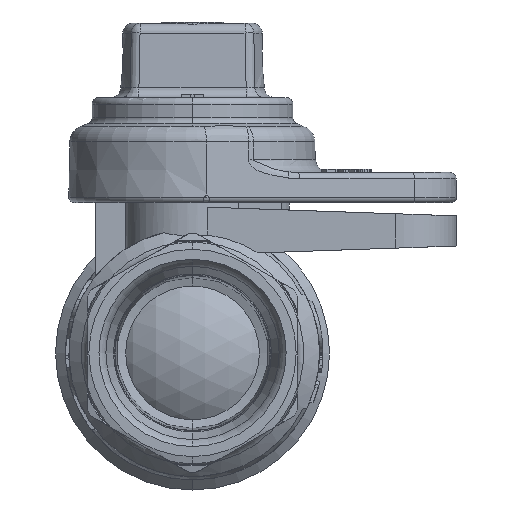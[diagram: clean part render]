
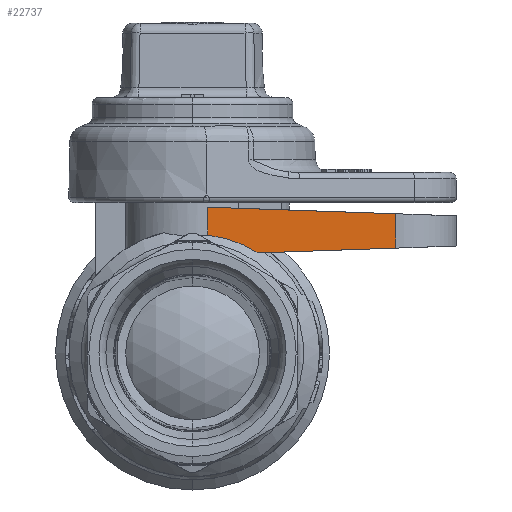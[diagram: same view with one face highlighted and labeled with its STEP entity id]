
A CAD part, left-side view. The second image highlights one B-rep face of the part: STEP entity #22737.
In plain terms, the highlighted planar face has unit normal (-1, -0.018, 0).
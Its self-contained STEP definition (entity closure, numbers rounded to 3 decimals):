
#103 = VERTEX_POINT('',#104);
#104 = CARTESIAN_POINT('',(-33.163,13.011,
    -34.93));
#113 = PLANE('',#114);
#114 = AXIS2_PLACEMENT_3D('',#115,#116,#117);
#115 = CARTESIAN_POINT('',(-33.187,11.544,
    -34.981));
#116 = DIRECTION('',(0.,-0.035,0.999));
#117 = DIRECTION('',(-1.,0.,0.));
#127 = CYLINDRICAL_SURFACE('',#128,0.394);
#128 = AXIS2_PLACEMENT_3D('',#129,#130,#131);
#129 = CARTESIAN_POINT('',(-32.779,13.101,
    -34.538));
#130 = DIRECTION('',(0.,0.,-1.));
#131 = DIRECTION('',(-1.,-0.,0.));
#161 = EDGE_CURVE('',#103,#162,#164,.T.);
#162 = VERTEX_POINT('',#163);
#163 = CARTESIAN_POINT('',(-33.143,11.902,
    -34.968));
#164 = SURFACE_CURVE('',#165,(#169,#176),.PCURVE_S1.);
#165 = LINE('',#166,#167);
#166 = CARTESIAN_POINT('',(-33.163,13.011,
    -34.93));
#167 = VECTOR('',#168,1.);
#168 = DIRECTION('',(0.017,-0.999,
    -0.035));
#169 = PCURVE('',#113,#170);
#170 = DEFINITIONAL_REPRESENTATION('',(#171),#175);
#171 = LINE('',#172,#173);
#172 = CARTESIAN_POINT('',(-0.024,-1.468));
#173 = VECTOR('',#174,1.);
#174 = DIRECTION('',(-0.017,1.));
#175 = ( GEOMETRIC_REPRESENTATION_CONTEXT(2) 
PARAMETRIC_REPRESENTATION_CONTEXT() REPRESENTATION_CONTEXT('2D SPACE',''
  ) );
#176 = PCURVE('',#177,#182);
#177 = PLANE('',#178);
#178 = AXIS2_PLACEMENT_3D('',#179,#180,#181);
#179 = CARTESIAN_POINT('',(-33.164,13.101,
    -34.981));
#180 = DIRECTION('',(-1.,-0.017,
    0.));
#181 = DIRECTION('',(0.017,-1.,
    0.));
#182 = DEFINITIONAL_REPRESENTATION('',(#183),#187);
#183 = LINE('',#184,#185);
#184 = CARTESIAN_POINT('',(0.089,0.051));
#185 = VECTOR('',#186,1.);
#186 = DIRECTION('',(0.999,-0.035));
#187 = ( GEOMETRIC_REPRESENTATION_CONTEXT(2) 
PARAMETRIC_REPRESENTATION_CONTEXT() REPRESENTATION_CONTEXT('2D SPACE',''
  ) );
#361 = CYLINDRICAL_SURFACE('',#362,0.364);
#362 = AXIS2_PLACEMENT_3D('',#363,#364,#365);
#363 = CARTESIAN_POINT('',(-32.779,11.909,
    -34.981));
#364 = DIRECTION('',(0.,0.,1.));
#365 = DIRECTION('',(1.,0.,-0.));
#6918 = CONICAL_SURFACE('',#6919,0.702,0.785);
#6919 = AXIS2_PLACEMENT_3D('',#6920,#6921,#6922);
#6920 = CARTESIAN_POINT('',(-33.161,13.101,
    -35.789));
#6921 = DIRECTION('',(1.,0.,0.));
#6922 = DIRECTION('',(0.,0.,-1.));
#15833 = VERTEX_POINT('',#15834);
#15834 = CARTESIAN_POINT('',(-33.163,13.011,
    -35.095));
#15902 = EDGE_CURVE('',#103,#15833,#15903,.T.);
#15903 = SURFACE_CURVE('',#15904,(#15908,#15915),.PCURVE_S1.);
#15904 = LINE('',#15905,#15906);
#15905 = CARTESIAN_POINT('',(-33.163,13.011,
    -34.93));
#15906 = VECTOR('',#15907,1.);
#15907 = DIRECTION('',(0.,0.,-1.));
#15908 = PCURVE('',#127,#15909);
#15909 = DEFINITIONAL_REPRESENTATION('',(#15910),#15914);
#15910 = LINE('',#15911,#15912);
#15911 = CARTESIAN_POINT('',(-0.229,0.391));
#15912 = VECTOR('',#15913,1.);
#15913 = DIRECTION('',(0.,1.));
#15914 = ( GEOMETRIC_REPRESENTATION_CONTEXT(2) 
PARAMETRIC_REPRESENTATION_CONTEXT() REPRESENTATION_CONTEXT('2D SPACE',''
  ) );
#15915 = PCURVE('',#177,#15916);
#15916 = DEFINITIONAL_REPRESENTATION('',(#15917),#15921);
#15917 = LINE('',#15918,#15919);
#15918 = CARTESIAN_POINT('',(0.089,0.051));
#15919 = VECTOR('',#15920,1.);
#15920 = DIRECTION('',(0.,-1.));
#15921 = ( GEOMETRIC_REPRESENTATION_CONTEXT(2) 
PARAMETRIC_REPRESENTATION_CONTEXT() REPRESENTATION_CONTEXT('2D SPACE',''
  ) );
#21109 = VERTEX_POINT('',#21110);
#21110 = CARTESIAN_POINT('',(-33.158,12.714,
    -35.199));
#21148 = PLANE('',#21149);
#21149 = AXIS2_PLACEMENT_3D('',#21150,#21151,#21152);
#21150 = CARTESIAN_POINT('',(-33.187,11.544,
    -35.158));
#21151 = DIRECTION('',(0.,0.035,0.999));
#21152 = DIRECTION('',(-1.,0.,0.));
#21162 = EDGE_CURVE('',#21109,#15833,#21163,.T.);
#21163 = SURFACE_CURVE('',#21164,(#21170,#21199),.PCURVE_S1.);
#21164 = B_SPLINE_CURVE_WITH_KNOTS('',3,(#21165,#21166,#21167,#21168,
    #21169),.UNSPECIFIED.,.F.,.F.,(4,1,4),(0.,0.5,1.),
  .QUASI_UNIFORM_KNOTS.);
#21165 = CARTESIAN_POINT('',(-33.158,12.714,
    -35.199));
#21166 = CARTESIAN_POINT('',(-33.158,12.76,
    -35.17));
#21167 = CARTESIAN_POINT('',(-33.16,12.855,
    -35.124));
#21168 = CARTESIAN_POINT('',(-33.162,12.958,
    -35.1));
#21169 = CARTESIAN_POINT('',(-33.163,13.011,
    -35.095));
#21170 = PCURVE('',#6918,#21171);
#21171 = DEFINITIONAL_REPRESENTATION('',(#21172),#21198);
#21172 = B_SPLINE_CURVE_WITH_KNOTS('',3,(#21173,#21174,#21175,#21176,
    #21177,#21178,#21179,#21180,#21181,#21182,#21183,#21184,#21185,
    #21186,#21187,#21188,#21189,#21190,#21191,#21192,#21193,#21194,
    #21195,#21196,#21197),.UNSPECIFIED.,.F.,.F.,(4,1,1,1,1,1,1,1,1,1,1,1
    ,1,1,1,1,1,1,1,1,1,1,4),(0.,0.045,0.091,
    0.136,0.182,0.227,0.273,
    0.318,0.364,0.409,0.455,0.5,
    0.545,0.591,0.636,0.682,
    0.727,0.773,0.818,0.864,
    0.909,0.955,1.),.QUASI_UNIFORM_KNOTS.);
#21173 = CARTESIAN_POINT('',(-2.561,0.003));
#21174 = CARTESIAN_POINT('',(-2.568,0.003));
#21175 = CARTESIAN_POINT('',(-2.582,0.003));
#21176 = CARTESIAN_POINT('',(-2.603,0.003));
#21177 = CARTESIAN_POINT('',(-2.624,0.002));
#21178 = CARTESIAN_POINT('',(-2.644,0.002));
#21179 = CARTESIAN_POINT('',(-2.665,0.002));
#21180 = CARTESIAN_POINT('',(-2.685,0.002));
#21181 = CARTESIAN_POINT('',(-2.706,0.001));
#21182 = CARTESIAN_POINT('',(-2.726,0.001));
#21183 = CARTESIAN_POINT('',(-2.746,0.001));
#21184 = CARTESIAN_POINT('',(-2.767,0.001));
#21185 = CARTESIAN_POINT('',(-2.787,0.001));
#21186 = CARTESIAN_POINT('',(-2.807,0.));
#21187 = CARTESIAN_POINT('',(-2.828,0.));
#21188 = CARTESIAN_POINT('',(-2.848,0.));
#21189 = CARTESIAN_POINT('',(-2.869,0.));
#21190 = CARTESIAN_POINT('',(-2.889,-0.001));
#21191 = CARTESIAN_POINT('',(-2.91,-0.001));
#21192 = CARTESIAN_POINT('',(-2.93,-0.001));
#21193 = CARTESIAN_POINT('',(-2.951,-0.001));
#21194 = CARTESIAN_POINT('',(-2.972,-0.002));
#21195 = CARTESIAN_POINT('',(-2.993,-0.002));
#21196 = CARTESIAN_POINT('',(-3.007,-0.002));
#21197 = CARTESIAN_POINT('',(-3.014,-0.002));
#21198 = ( GEOMETRIC_REPRESENTATION_CONTEXT(2) 
PARAMETRIC_REPRESENTATION_CONTEXT() REPRESENTATION_CONTEXT('2D SPACE',''
  ) );
#21199 = PCURVE('',#177,#21200);
#21200 = DEFINITIONAL_REPRESENTATION('',(#21201),#21207);
#21201 = B_SPLINE_CURVE_WITH_KNOTS('',3,(#21202,#21203,#21204,#21205,
    #21206),.UNSPECIFIED.,.F.,.F.,(4,1,4),(0.,0.5,1.),
  .QUASI_UNIFORM_KNOTS.);
#21202 = CARTESIAN_POINT('',(0.387,-0.218));
#21203 = CARTESIAN_POINT('',(0.341,-0.189));
#21204 = CARTESIAN_POINT('',(0.246,-0.143));
#21205 = CARTESIAN_POINT('',(0.143,-0.12));
#21206 = CARTESIAN_POINT('',(0.089,-0.114));
#21207 = ( GEOMETRIC_REPRESENTATION_CONTEXT(2) 
PARAMETRIC_REPRESENTATION_CONTEXT() REPRESENTATION_CONTEXT('2D SPACE',''
  ) );
#21980 = VERTEX_POINT('',#21981);
#21981 = CARTESIAN_POINT('',(-33.143,11.902,
    -35.171));
#22488 = EDGE_CURVE('',#21109,#21980,#22489,.T.);
#22489 = SURFACE_CURVE('',#22490,(#22494,#22501),.PCURVE_S1.);
#22490 = LINE('',#22491,#22492);
#22491 = CARTESIAN_POINT('',(-33.158,12.714,
    -35.199));
#22492 = VECTOR('',#22493,1.);
#22493 = DIRECTION('',(0.017,-0.999,
    0.035));
#22494 = PCURVE('',#21148,#22495);
#22495 = DEFINITIONAL_REPRESENTATION('',(#22496),#22500);
#22496 = LINE('',#22497,#22498);
#22497 = CARTESIAN_POINT('',(-0.029,-1.171));
#22498 = VECTOR('',#22499,1.);
#22499 = DIRECTION('',(-0.017,1.));
#22500 = ( GEOMETRIC_REPRESENTATION_CONTEXT(2) 
PARAMETRIC_REPRESENTATION_CONTEXT() REPRESENTATION_CONTEXT('2D SPACE',''
  ) );
#22501 = PCURVE('',#177,#22502);
#22502 = DEFINITIONAL_REPRESENTATION('',(#22503),#22507);
#22503 = LINE('',#22504,#22505);
#22504 = CARTESIAN_POINT('',(0.387,-0.218));
#22505 = VECTOR('',#22506,1.);
#22506 = DIRECTION('',(0.999,0.035));
#22507 = ( GEOMETRIC_REPRESENTATION_CONTEXT(2) 
PARAMETRIC_REPRESENTATION_CONTEXT() REPRESENTATION_CONTEXT('2D SPACE',''
  ) );
#22737 = ADVANCED_FACE('',(#22738),#177,.T.);
#22738 = FACE_BOUND('',#22739,.T.);
#22739 = EDGE_LOOP('',(#22740,#22741,#22742,#22763,#22764));
#22740 = ORIENTED_EDGE('',*,*,#21162,.F.);
#22741 = ORIENTED_EDGE('',*,*,#22488,.T.);
#22742 = ORIENTED_EDGE('',*,*,#22743,.F.);
#22743 = EDGE_CURVE('',#162,#21980,#22744,.T.);
#22744 = SURFACE_CURVE('',#22745,(#22749,#22756),.PCURVE_S1.);
#22745 = LINE('',#22746,#22747);
#22746 = CARTESIAN_POINT('',(-33.143,11.902,
    -34.968));
#22747 = VECTOR('',#22748,1.);
#22748 = DIRECTION('',(0.,0.,-1.));
#22749 = PCURVE('',#177,#22750);
#22750 = DEFINITIONAL_REPRESENTATION('',(#22751),#22755);
#22751 = LINE('',#22752,#22753);
#22752 = CARTESIAN_POINT('',(1.198,0.013));
#22753 = VECTOR('',#22754,1.);
#22754 = DIRECTION('',(0.,-1.));
#22755 = ( GEOMETRIC_REPRESENTATION_CONTEXT(2) 
PARAMETRIC_REPRESENTATION_CONTEXT() REPRESENTATION_CONTEXT('2D SPACE',''
  ) );
#22756 = PCURVE('',#361,#22757);
#22757 = DEFINITIONAL_REPRESENTATION('',(#22758),#22762);
#22758 = LINE('',#22759,#22760);
#22759 = CARTESIAN_POINT('',(3.159,0.013));
#22760 = VECTOR('',#22761,1.);
#22761 = DIRECTION('',(0.,-1.));
#22762 = ( GEOMETRIC_REPRESENTATION_CONTEXT(2) 
PARAMETRIC_REPRESENTATION_CONTEXT() REPRESENTATION_CONTEXT('2D SPACE',''
  ) );
#22763 = ORIENTED_EDGE('',*,*,#161,.F.);
#22764 = ORIENTED_EDGE('',*,*,#15902,.T.);
